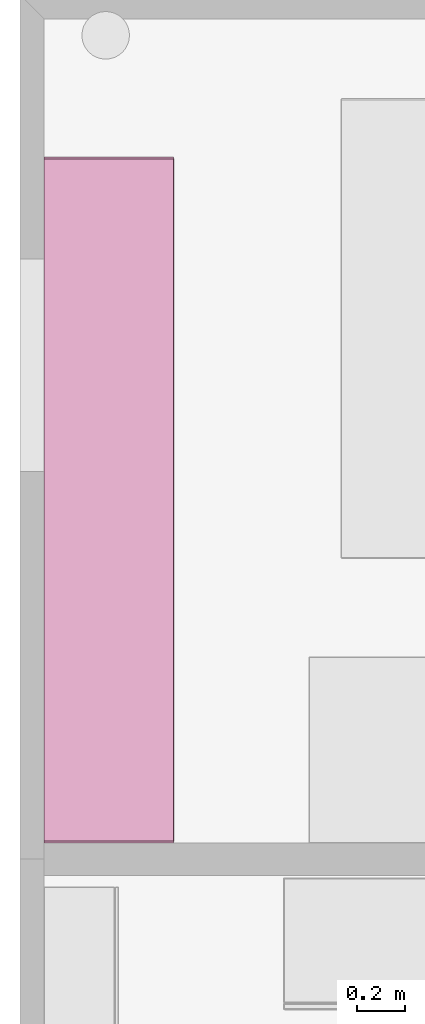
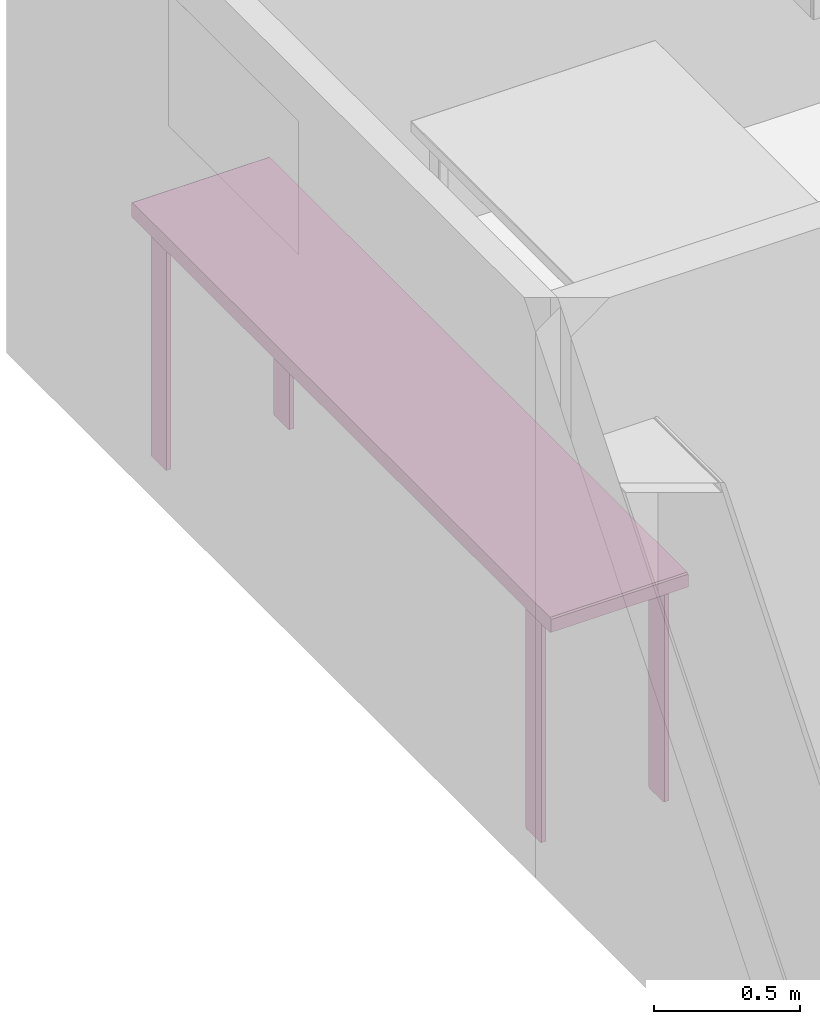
# One storey, part 6 of 9: 1 furnishing.
"""IFC2X3 building model written with IfcOpenShell, lengths in metres."""

from ifc_helpers import new_model, si_unit, frame, origin_with_axes, place, context, project, spatial, faceted_brep, type_object, element, save


model = new_model("IFC2X3")

# Units and contexts
model_context = context("Model", 3, precision=1e-05, world=origin_with_axes())
ifc_project = project(units=[si_unit("AREAUNIT", "SQUARE_METRE"), si_unit("LENGTHUNIT", "METRE")], contexts=[model_context])

# Site, building, storey, space
site_placement = place(None, origin_with_axes())
site = spatial("IfcSite", under=ifc_project, at=site_placement, Name="Site", CompositionType="ELEMENT")
building_placement = place(site_placement, origin_with_axes())
building = spatial("IfcBuilding", under=site, at=building_placement, Name="Building", CompositionType="ELEMENT")
storey_placement = place(building_placement, frame((0.0, 0.0, 0.0500004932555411), z_axis=(0.0, 0.0, 1.0), x_axis=(1.0, 0.0, 0.0)))
storey = spatial("IfcBuildingStorey", under=building, at=storey_placement, Name="Story 0", CompositionType="ELEMENT", Elevation=0.0499999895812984)
space_placement = place(storey_placement, frame((-7.67097576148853, 2.58340758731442, 0.0), z_axis=(0.0, 0.0, 1.0), x_axis=(1.0, 0.0, 0.0)))
space = spatial("IfcSpace", under=storey, at=space_placement, Name="001", CompositionType="ELEMENT", InteriorOrExteriorSpace="INTERNAL")

# Furnishing
furniture_type = type_object("IfcFurnitureType", Name="f8750fec-dc7e-454e-889b-e3eeaa5280df")
furnishing_placement = place(space_placement, frame((0.274523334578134, -2.02252275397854, 0.506083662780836), z_axis=(0.0, 0.0, 1.00000000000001), x_axis=(1.00000000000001, 0.0, 0.0)))
element("IfcFurnishingElement", 1, at=furnishing_placement, inside=space, type_object=furniture_type, Name="Table", ObjectType="Table", context=model_context, shape_type="Brep", body=[
    faceted_brep([(0.272, 1.441, 0.4474), (-0.272, 1.441, 0.4474), (0.272, 1.441, 0.5016), (-0.272, 1.441, 0.5016), (0.272, 1.441, 0.5016), (-0.272, 1.441, 0.4474), (0.2331, -1.3342, 0.4588), (0.2331, -1.2397, 0.4588), (0.2331, -1.3342, -0.5016), (0.2331, -1.2397, -0.5016), (0.2331, -1.3342, -0.5016), (0.2331, -1.2397, 0.4588), (0.2524, -1.3414, 0.4588), (0.2345, -1.3414, 0.4588), (0.2524, -1.3414, -0.5016), (0.2345, -1.3414, -0.5016), (0.2524, -1.3414, -0.5016), (0.2345, -1.3414, 0.4588), (0.2538, -1.2397, 0.4588), (0.2538, -1.3342, 0.4588), (0.2538, -1.2397, -0.5016), (0.2538, -1.3342, -0.5016), (0.2538, -1.2397, -0.5016), (0.2538, -1.3342, 0.4588), (0.2345, -1.2325, 0.4588), (0.2524, -1.2325, 0.4588), (0.2345, -1.2325, -0.5016), (0.2524, -1.2325, -0.5016), (0.2345, -1.2325, -0.5016), (0.2524, -1.2325, 0.4588), (0.2331, 1.3342, 0.4588), (0.2331, 1.3342, -0.5016), (0.2331, 1.2397, 0.4588), (0.2331, 1.2397, -0.5016), (0.2331, 1.2397, 0.4588), (0.2331, 1.3342, -0.5016), (0.2524, 1.3414, 0.4588), (0.2524, 1.3414, -0.5016), (0.2345, 1.3414, 0.4588), (0.2345, 1.3414, -0.5016), (0.2345, 1.3414, 0.4588), (0.2524, 1.3414, -0.5016), (0.2538, 1.2397, 0.4588), (0.2538, 1.2397, -0.5016), (0.2538, 1.3342, 0.4588), (0.2538, 1.3342, -0.5016), (0.2538, 1.3342, 0.4588), (0.2538, 1.2397, -0.5016), (0.2345, 1.2325, 0.4588), (0.2345, 1.2325, -0.5016), (0.2524, 1.2325, 0.4588), (0.2524, 1.2325, -0.5016), (0.2524, 1.2325, 0.4588), (0.2345, 1.2325, -0.5016), (0.2733, 1.4338, 0.4474), (0.2733, 1.4338, 0.5016), (0.2733, -1.4338, 0.4474), (0.2733, -1.4338, 0.5016), (0.2733, -1.4338, 0.4474), (0.2733, 1.4338, 0.5016), (-0.2733, 1.4338, 0.5016), (-0.2733, 1.4338, 0.4474), (-0.2733, -1.4338, 0.5016), (-0.2733, -1.4338, 0.4474), (-0.2733, -1.4338, 0.5016), (-0.2733, 1.4338, 0.4474), (-0.2331, -1.3342, 0.4588), (-0.2331, -1.3342, -0.5016), (-0.2331, -1.2397, 0.4588), (-0.2331, -1.2397, -0.5016), (-0.2331, -1.2397, 0.4588), (-0.2331, -1.3342, -0.5016), (-0.2524, -1.3414, 0.4588), (-0.2524, -1.3414, -0.5016), (-0.2345, -1.3414, 0.4588), (-0.2345, -1.3414, -0.5016), (-0.2345, -1.3414, 0.4588), (-0.2524, -1.3414, -0.5016), (-0.2538, -1.2397, 0.4588), (-0.2538, -1.2397, -0.5016), (-0.2538, -1.3342, 0.4588), (-0.2538, -1.3342, -0.5016), (-0.2538, -1.3342, 0.4588), (-0.2538, -1.2397, -0.5016), (-0.2345, -1.2325, 0.4588), (-0.2345, -1.2325, -0.5016), (-0.2524, -1.2325, 0.4588), (-0.2524, -1.2325, -0.5016), (-0.2524, -1.2325, 0.4588), (-0.2345, -1.2325, -0.5016), (-0.2331, 1.3342, 0.4588), (-0.2331, 1.2397, 0.4588), (-0.2331, 1.3342, -0.5016), (-0.2331, 1.2397, -0.5016), (-0.2331, 1.3342, -0.5016), (-0.2331, 1.2397, 0.4588), (-0.2524, 1.3414, 0.4588), (-0.2345, 1.3414, 0.4588), (-0.2524, 1.3414, -0.5016), (-0.2345, 1.3414, -0.5016), (-0.2524, 1.3414, -0.5016), (-0.2345, 1.3414, 0.4588), (-0.2538, 1.2397, 0.4588), (-0.2538, 1.3342, 0.4588), (-0.2538, 1.2397, -0.5016), (-0.2538, 1.3342, -0.5016), (-0.2538, 1.2397, -0.5016), (-0.2538, 1.3342, 0.4588), (-0.2345, 1.2325, 0.4588), (-0.2524, 1.2325, 0.4588), (-0.2345, 1.2325, -0.5016), (-0.2524, 1.2325, -0.5016), (-0.2345, 1.2325, -0.5016), (-0.2524, 1.2325, 0.4588), (-0.272, 1.4338, 0.5061), (-0.272, -1.4338, 0.5061), (0.272, 1.4338, 0.5061), (0.272, -1.4338, 0.5061), (0.272, 1.4338, 0.5061), (-0.272, -1.4338, 0.5061), (0.272, -1.441, 0.4474), (0.272, -1.441, 0.5016), (-0.272, -1.441, 0.4474), (-0.272, -1.441, 0.5016), (-0.272, -1.441, 0.4474), (0.272, -1.441, 0.5016), (0.272, -1.4338, 0.4429), (-0.272, -1.4338, 0.4429), (0.272, 1.4338, 0.4429), (-0.272, 1.4338, 0.4429), (0.272, 1.4338, 0.4429), (-0.272, -1.4338, 0.4429), (0.2524, -1.3342, 0.4632), (0.2524, -1.2397, 0.4632), (0.2345, -1.3342, 0.4632), (0.2345, -1.2397, 0.4632), (0.2345, -1.3342, 0.4632), (0.2524, -1.2397, 0.4632), (0.2524, -1.2397, -0.5061), (0.2524, -1.3342, -0.5061), (0.2345, -1.2397, -0.5061), (0.2345, -1.3342, -0.5061), (0.2345, -1.2397, -0.5061), (0.2524, -1.3342, -0.5061), (0.2524, 1.3342, -0.5061), (0.2524, 1.2397, -0.5061), (0.2345, 1.3342, -0.5061), (0.2345, 1.2397, -0.5061), (0.2345, 1.3342, -0.5061), (0.2524, 1.2397, -0.5061), (0.2524, 1.2397, 0.4632), (0.2524, 1.3342, 0.4632), (0.2345, 1.2397, 0.4632), (0.2345, 1.3342, 0.4632), (0.2345, 1.2397, 0.4632), (0.2524, 1.3342, 0.4632), (-0.2524, -1.3342, -0.5061), (-0.2524, -1.2397, -0.5061), (-0.2345, -1.3342, -0.5061), (-0.2345, -1.2397, -0.5061), (-0.2345, -1.3342, -0.5061), (-0.2524, -1.2397, -0.5061), (-0.2524, -1.2397, 0.4632), (-0.2524, -1.3342, 0.4632), (-0.2345, -1.2397, 0.4632), (-0.2345, -1.3342, 0.4632), (-0.2345, -1.2397, 0.4632), (-0.2524, -1.3342, 0.4632), (-0.2524, 1.3342, 0.4632), (-0.2524, 1.2397, 0.4632), (-0.2345, 1.3342, 0.4632), (-0.2345, 1.2397, 0.4632), (-0.2345, 1.3342, 0.4632), (-0.2524, 1.2397, 0.4632), (-0.2524, 1.2397, -0.5061), (-0.2524, 1.3342, -0.5061), (-0.2345, 1.2397, -0.5061), (-0.2345, 1.3342, -0.5061), (-0.2345, 1.2397, -0.5061), (-0.2524, 1.3342, -0.5061), (-0.272, 1.4338, 0.5061), (-0.272, 1.441, 0.5016), (-0.2733, 1.4338, 0.5016), (0.2345, -1.2397, -0.5061), (0.2331, -1.2397, -0.5016), (0.2345, -1.2325, -0.5016), (0.2345, -1.3342, -0.5061), (0.2345, -1.3414, -0.5016), (0.2331, -1.3342, -0.5016), (0.2524, -1.3342, -0.5061), (0.2538, -1.3342, -0.5016), (0.2524, -1.3414, -0.5016), (0.2524, -1.2397, -0.5061), (0.2524, -1.2325, -0.5016), (0.2538, -1.2397, -0.5016), (0.2345, -1.2397, 0.4632), (0.2345, -1.2325, 0.4588), (0.2331, -1.2397, 0.4588), (0.2345, 1.2325, -0.5016), (0.2331, 1.2397, -0.5016), (0.2345, 1.2397, -0.5061), (0.2345, 1.3342, 0.4632), (0.2345, 1.3414, 0.4588), (0.2331, 1.3342, 0.4588), (0.2524, 1.3342, 0.4632), (0.2538, 1.3342, 0.4588), (0.2524, 1.3414, 0.4588), (0.2524, 1.2397, 0.4632), (0.2524, 1.2325, 0.4588), (0.2538, 1.2397, 0.4588), (0.272, -1.441, 0.5016), (0.2733, -1.4338, 0.5016), (0.272, -1.4338, 0.5061), (0.272, 1.4338, 0.5061), (0.2733, 1.4338, 0.5016), (0.272, 1.441, 0.5016), (-0.272, -1.441, 0.4474), (-0.2733, -1.4338, 0.4474), (-0.272, -1.4338, 0.4429), (-0.272, 1.4338, 0.4429), (-0.2733, 1.4338, 0.4474), (-0.272, 1.441, 0.4474), (-0.2345, -1.2325, -0.5016), (-0.2331, -1.2397, -0.5016), (-0.2345, -1.2397, -0.5061), (-0.2345, -1.3342, 0.4632), (-0.2345, -1.3414, 0.4588), (-0.2331, -1.3342, 0.4588), (-0.2524, -1.3342, 0.4632), (-0.2538, -1.3342, 0.4588), (-0.2524, -1.3414, 0.4588), (-0.2524, -1.2397, 0.4632), (-0.2524, -1.2325, 0.4588), (-0.2538, -1.2397, 0.4588), (-0.2345, 1.2397, -0.5061), (-0.2331, 1.2397, -0.5016), (-0.2345, 1.2325, -0.5016), (-0.2345, 1.3342, -0.5061), (-0.2345, 1.3414, -0.5016), (-0.2331, 1.3342, -0.5016), (-0.2524, 1.3342, -0.5061), (-0.2538, 1.3342, -0.5016), (-0.2524, 1.3414, -0.5016), (-0.2524, 1.2397, -0.5061), (-0.2524, 1.2325, -0.5016), (-0.2538, 1.2397, -0.5016), (-0.2345, 1.2397, 0.4632), (-0.2345, 1.2325, 0.4588), (-0.2331, 1.2397, 0.4588), (-0.272, -1.441, 0.5016), (-0.272, -1.4338, 0.5061), (-0.2733, -1.4338, 0.5016), (0.272, -1.441, 0.4474), (0.272, -1.4338, 0.4429), (0.2733, -1.4338, 0.4474), (0.2733, 1.4338, 0.4474), (0.272, 1.4338, 0.4429), (0.272, 1.441, 0.4474), (0.2524, -1.2325, 0.4588), (0.2524, -1.2397, 0.4632), (0.2538, -1.2397, 0.4588), (0.2538, -1.3342, 0.4588), (0.2524, -1.3342, 0.4632), (0.2524, -1.3414, 0.4588), (0.2345, -1.3414, 0.4588), (0.2345, -1.3342, 0.4632), (0.2331, -1.3342, 0.4588), (0.2524, 1.2325, -0.5016), (0.2524, 1.2397, -0.5061), (0.2538, 1.2397, -0.5016), (0.2538, 1.3342, -0.5016), (0.2524, 1.3342, -0.5061), (0.2524, 1.3414, -0.5016), (0.2345, 1.3414, -0.5016), (0.2345, 1.3342, -0.5061), (0.2331, 1.3342, -0.5016), (0.2345, 1.2325, 0.4588), (0.2345, 1.2397, 0.4632), (0.2331, 1.2397, 0.4588), (-0.2524, -1.2325, -0.5016), (-0.2524, -1.2397, -0.5061), (-0.2538, -1.2397, -0.5016), (-0.2538, -1.3342, -0.5016), (-0.2524, -1.3342, -0.5061), (-0.2524, -1.3414, -0.5016), (-0.2345, -1.3414, -0.5016), (-0.2345, -1.3342, -0.5061), (-0.2331, -1.3342, -0.5016), (-0.2345, -1.2325, 0.4588), (-0.2345, -1.2397, 0.4632), (-0.2331, -1.2397, 0.4588), (-0.2524, 1.2325, 0.4588), (-0.2524, 1.2397, 0.4632), (-0.2538, 1.2397, 0.4588), (-0.2538, 1.3342, 0.4588), (-0.2524, 1.3342, 0.4632), (-0.2524, 1.3414, 0.4588), (-0.2345, 1.3414, 0.4588), (-0.2345, 1.3342, 0.4632), (-0.2331, 1.3342, 0.4588), (-0.272, 1.441, 0.5016), (-0.272, 1.441, 0.4474), (-0.2733, 1.4338, 0.5016), (-0.2733, 1.4338, 0.4474), (-0.2733, 1.4338, 0.5016), (-0.272, 1.441, 0.4474), (-0.272, 1.441, 0.4474), (0.272, 1.441, 0.4474), (-0.272, 1.4338, 0.4429), (0.272, 1.4338, 0.4429), (-0.272, 1.4338, 0.4429), (0.272, 1.441, 0.4474), (0.272, 1.441, 0.4474), (0.272, 1.441, 0.5016), (0.2733, 1.4338, 0.4474), (0.2733, 1.4338, 0.5016), (0.2733, 1.4338, 0.4474), (0.272, 1.441, 0.5016), (0.272, 1.441, 0.5016), (-0.272, 1.441, 0.5016), (0.272, 1.4338, 0.5061), (-0.272, 1.4338, 0.5061), (0.272, 1.4338, 0.5061), (-0.272, 1.441, 0.5016), (0.2331, -1.2397, -0.5016), (0.2331, -1.2397, 0.4588), (0.2345, -1.2325, -0.5016), (0.2345, -1.2325, 0.4588), (0.2345, -1.2325, -0.5016), (0.2331, -1.2397, 0.4588), (0.2331, -1.2397, 0.4588), (0.2331, -1.3342, 0.4588), (0.2345, -1.2397, 0.4632), (0.2345, -1.3342, 0.4632), (0.2345, -1.2397, 0.4632), (0.2331, -1.3342, 0.4588), (0.2331, -1.3342, 0.4588), (0.2331, -1.3342, -0.5016), (0.2345, -1.3414, 0.4588), (0.2345, -1.3414, -0.5016), (0.2345, -1.3414, 0.4588), (0.2331, -1.3342, -0.5016), (0.2331, -1.3342, -0.5016), (0.2331, -1.2397, -0.5016), (0.2345, -1.3342, -0.5061), (0.2345, -1.2397, -0.5061), (0.2345, -1.3342, -0.5061), (0.2331, -1.2397, -0.5016), (0.2345, -1.3414, 0.4588), (0.2524, -1.3414, 0.4588), (0.2345, -1.3342, 0.4632), (0.2524, -1.3342, 0.4632), (0.2345, -1.3342, 0.4632), (0.2524, -1.3414, 0.4588), (0.2524, -1.3414, 0.4588), (0.2524, -1.3414, -0.5016), (0.2538, -1.3342, 0.4588), (0.2538, -1.3342, -0.5016), (0.2538, -1.3342, 0.4588), (0.2524, -1.3414, -0.5016), (0.2524, -1.3414, -0.5016), (0.2345, -1.3414, -0.5016), (0.2524, -1.3342, -0.5061), (0.2345, -1.3342, -0.5061), (0.2524, -1.3342, -0.5061), (0.2345, -1.3414, -0.5016), (0.2538, -1.3342, 0.4588), (0.2538, -1.2397, 0.4588), (0.2524, -1.3342, 0.4632), (0.2524, -1.2397, 0.4632), (0.2524, -1.3342, 0.4632), (0.2538, -1.2397, 0.4588), (0.2538, -1.2397, 0.4588), (0.2538, -1.2397, -0.5016), (0.2524, -1.2325, 0.4588), (0.2524, -1.2325, -0.5016), (0.2524, -1.2325, 0.4588), (0.2538, -1.2397, -0.5016), (0.2538, -1.2397, -0.5016), (0.2538, -1.3342, -0.5016), (0.2524, -1.2397, -0.5061), (0.2524, -1.3342, -0.5061), (0.2524, -1.2397, -0.5061), (0.2538, -1.3342, -0.5016), (0.2524, -1.2325, 0.4588), (0.2345, -1.2325, 0.4588), (0.2524, -1.2397, 0.4632), (0.2345, -1.2397, 0.4632), (0.2524, -1.2397, 0.4632), (0.2345, -1.2325, 0.4588), (0.2345, -1.2325, -0.5016), (0.2524, -1.2325, -0.5016), (0.2345, -1.2397, -0.5061), (0.2524, -1.2397, -0.5061), (0.2345, -1.2397, -0.5061), (0.2524, -1.2325, -0.5016), (0.2331, 1.2397, -0.5016), (0.2331, 1.3342, -0.5016), (0.2345, 1.2397, -0.5061), (0.2345, 1.3342, -0.5061), (0.2345, 1.2397, -0.5061), (0.2331, 1.3342, -0.5016), (0.2331, 1.3342, -0.5016), (0.2331, 1.3342, 0.4588), (0.2345, 1.3414, -0.5016), (0.2345, 1.3414, 0.4588), (0.2345, 1.3414, -0.5016), (0.2331, 1.3342, 0.4588), (0.2331, 1.3342, 0.4588), (0.2331, 1.2397, 0.4588), (0.2345, 1.3342, 0.4632), (0.2345, 1.2397, 0.4632), (0.2345, 1.3342, 0.4632), (0.2331, 1.2397, 0.4588), (0.2331, 1.2397, 0.4588), (0.2331, 1.2397, -0.5016), (0.2345, 1.2325, 0.4588), (0.2345, 1.2325, -0.5016), (0.2345, 1.2325, 0.4588), (0.2331, 1.2397, -0.5016), (0.2345, 1.3414, -0.5016), (0.2524, 1.3414, -0.5016), (0.2345, 1.3342, -0.5061), (0.2524, 1.3342, -0.5061), (0.2345, 1.3342, -0.5061), (0.2524, 1.3414, -0.5016), (0.2524, 1.3414, -0.5016), (0.2524, 1.3414, 0.4588), (0.2538, 1.3342, -0.5016), (0.2538, 1.3342, 0.4588), (0.2538, 1.3342, -0.5016), (0.2524, 1.3414, 0.4588), (0.2524, 1.3414, 0.4588), (0.2345, 1.3414, 0.4588), (0.2524, 1.3342, 0.4632), (0.2345, 1.3342, 0.4632), (0.2524, 1.3342, 0.4632), (0.2345, 1.3414, 0.4588), (0.2538, 1.3342, -0.5016), (0.2538, 1.2397, -0.5016), (0.2524, 1.3342, -0.5061), (0.2524, 1.2397, -0.5061), (0.2524, 1.3342, -0.5061), (0.2538, 1.2397, -0.5016), (0.2538, 1.2397, -0.5016), (0.2538, 1.2397, 0.4588), (0.2524, 1.2325, -0.5016), (0.2524, 1.2325, 0.4588), (0.2524, 1.2325, -0.5016), (0.2538, 1.2397, 0.4588), (0.2538, 1.2397, 0.4588), (0.2538, 1.3342, 0.4588), (0.2524, 1.2397, 0.4632), (0.2524, 1.3342, 0.4632), (0.2524, 1.2397, 0.4632), (0.2538, 1.3342, 0.4588), (0.2524, 1.2325, -0.5016), (0.2345, 1.2325, -0.5016), (0.2524, 1.2397, -0.5061), (0.2345, 1.2397, -0.5061), (0.2524, 1.2397, -0.5061), (0.2345, 1.2325, -0.5016), (0.2345, 1.2325, 0.4588), (0.2524, 1.2325, 0.4588), (0.2345, 1.2397, 0.4632), (0.2524, 1.2397, 0.4632), (0.2345, 1.2397, 0.4632), (0.2524, 1.2325, 0.4588), (0.2733, -1.4338, 0.5016), (0.2733, 1.4338, 0.5016), (0.272, -1.4338, 0.5061), (0.272, 1.4338, 0.5061), (0.272, -1.4338, 0.5061), (0.2733, 1.4338, 0.5016), (0.2733, 1.4338, 0.4474), (0.2733, -1.4338, 0.4474), (0.272, 1.4338, 0.4429), (0.272, -1.4338, 0.4429), (0.272, 1.4338, 0.4429), (0.2733, -1.4338, 0.4474), (0.2733, -1.4338, 0.4474), (0.2733, -1.4338, 0.5016), (0.272, -1.441, 0.4474), (0.272, -1.441, 0.5016), (0.272, -1.441, 0.4474), (0.2733, -1.4338, 0.5016), (-0.2733, -1.4338, 0.4474), (-0.2733, 1.4338, 0.4474), (-0.272, -1.4338, 0.4429), (-0.272, 1.4338, 0.4429), (-0.272, -1.4338, 0.4429), (-0.2733, 1.4338, 0.4474), (-0.2733, 1.4338, 0.5016), (-0.2733, -1.4338, 0.5016), (-0.272, 1.4338, 0.5061), (-0.272, -1.4338, 0.5061), (-0.272, 1.4338, 0.5061), (-0.2733, -1.4338, 0.5016), (-0.2733, -1.4338, 0.5016), (-0.2733, -1.4338, 0.4474), (-0.272, -1.441, 0.5016), (-0.272, -1.441, 0.4474), (-0.272, -1.441, 0.5016), (-0.2733, -1.4338, 0.4474), (-0.2331, -1.2397, -0.5016), (-0.2331, -1.3342, -0.5016), (-0.2345, -1.2397, -0.5061), (-0.2345, -1.3342, -0.5061), (-0.2345, -1.2397, -0.5061), (-0.2331, -1.3342, -0.5016), (-0.2331, -1.3342, -0.5016), (-0.2331, -1.3342, 0.4588), (-0.2345, -1.3414, -0.5016), (-0.2345, -1.3414, 0.4588), (-0.2345, -1.3414, -0.5016), (-0.2331, -1.3342, 0.4588), (-0.2331, -1.3342, 0.4588), (-0.2331, -1.2397, 0.4588), (-0.2345, -1.3342, 0.4632), (-0.2345, -1.2397, 0.4632), (-0.2345, -1.3342, 0.4632), (-0.2331, -1.2397, 0.4588), (-0.2331, -1.2397, 0.4588), (-0.2331, -1.2397, -0.5016), (-0.2345, -1.2325, 0.4588), (-0.2345, -1.2325, -0.5016), (-0.2345, -1.2325, 0.4588), (-0.2331, -1.2397, -0.5016), (-0.2345, -1.3414, -0.5016), (-0.2524, -1.3414, -0.5016), (-0.2345, -1.3342, -0.5061), (-0.2524, -1.3342, -0.5061), (-0.2345, -1.3342, -0.5061), (-0.2524, -1.3414, -0.5016), (-0.2524, -1.3414, -0.5016), (-0.2524, -1.3414, 0.4588), (-0.2538, -1.3342, -0.5016), (-0.2538, -1.3342, 0.4588), (-0.2538, -1.3342, -0.5016), (-0.2524, -1.3414, 0.4588), (-0.2524, -1.3414, 0.4588), (-0.2345, -1.3414, 0.4588), (-0.2524, -1.3342, 0.4632), (-0.2345, -1.3342, 0.4632), (-0.2524, -1.3342, 0.4632), (-0.2345, -1.3414, 0.4588), (-0.2538, -1.3342, -0.5016), (-0.2538, -1.2397, -0.5016), (-0.2524, -1.3342, -0.5061), (-0.2524, -1.2397, -0.5061), (-0.2524, -1.3342, -0.5061), (-0.2538, -1.2397, -0.5016), (-0.2538, -1.2397, -0.5016), (-0.2538, -1.2397, 0.4588), (-0.2524, -1.2325, -0.5016), (-0.2524, -1.2325, 0.4588), (-0.2524, -1.2325, -0.5016), (-0.2538, -1.2397, 0.4588), (-0.2538, -1.2397, 0.4588), (-0.2538, -1.3342, 0.4588), (-0.2524, -1.2397, 0.4632), (-0.2524, -1.3342, 0.4632), (-0.2524, -1.2397, 0.4632), (-0.2538, -1.3342, 0.4588), (-0.2524, -1.2325, -0.5016), (-0.2345, -1.2325, -0.5016), (-0.2524, -1.2397, -0.5061), (-0.2345, -1.2397, -0.5061), (-0.2524, -1.2397, -0.5061), (-0.2345, -1.2325, -0.5016), (-0.2345, -1.2325, 0.4588), (-0.2524, -1.2325, 0.4588), (-0.2345, -1.2397, 0.4632), (-0.2524, -1.2397, 0.4632), (-0.2345, -1.2397, 0.4632), (-0.2524, -1.2325, 0.4588), (-0.2331, 1.2397, -0.5016), (-0.2331, 1.2397, 0.4588), (-0.2345, 1.2325, -0.5016), (-0.2345, 1.2325, 0.4588), (-0.2345, 1.2325, -0.5016), (-0.2331, 1.2397, 0.4588), (-0.2331, 1.2397, 0.4588), (-0.2331, 1.3342, 0.4588), (-0.2345, 1.2397, 0.4632), (-0.2345, 1.3342, 0.4632), (-0.2345, 1.2397, 0.4632), (-0.2331, 1.3342, 0.4588), (-0.2331, 1.3342, 0.4588), (-0.2331, 1.3342, -0.5016), (-0.2345, 1.3414, 0.4588), (-0.2345, 1.3414, -0.5016), (-0.2345, 1.3414, 0.4588), (-0.2331, 1.3342, -0.5016), (-0.2331, 1.3342, -0.5016), (-0.2331, 1.2397, -0.5016), (-0.2345, 1.3342, -0.5061), (-0.2345, 1.2397, -0.5061), (-0.2345, 1.3342, -0.5061), (-0.2331, 1.2397, -0.5016), (-0.2345, 1.3414, 0.4588), (-0.2524, 1.3414, 0.4588), (-0.2345, 1.3342, 0.4632), (-0.2524, 1.3342, 0.4632), (-0.2345, 1.3342, 0.4632), (-0.2524, 1.3414, 0.4588), (-0.2524, 1.3414, 0.4588), (-0.2524, 1.3414, -0.5016), (-0.2538, 1.3342, 0.4588), (-0.2538, 1.3342, -0.5016), (-0.2538, 1.3342, 0.4588), (-0.2524, 1.3414, -0.5016), (-0.2524, 1.3414, -0.5016), (-0.2345, 1.3414, -0.5016), (-0.2524, 1.3342, -0.5061), (-0.2345, 1.3342, -0.5061), (-0.2524, 1.3342, -0.5061), (-0.2345, 1.3414, -0.5016), (-0.2538, 1.3342, 0.4588), (-0.2538, 1.2397, 0.4588), (-0.2524, 1.3342, 0.4632), (-0.2524, 1.2397, 0.4632), (-0.2524, 1.3342, 0.4632), (-0.2538, 1.2397, 0.4588), (-0.2538, 1.2397, 0.4588), (-0.2538, 1.2397, -0.5016), (-0.2524, 1.2325, 0.4588), (-0.2524, 1.2325, -0.5016), (-0.2524, 1.2325, 0.4588), (-0.2538, 1.2397, -0.5016), (-0.2538, 1.2397, -0.5016), (-0.2538, 1.3342, -0.5016), (-0.2524, 1.2397, -0.5061), (-0.2524, 1.3342, -0.5061), (-0.2524, 1.2397, -0.5061), (-0.2538, 1.3342, -0.5016), (-0.2524, 1.2325, 0.4588), (-0.2345, 1.2325, 0.4588), (-0.2524, 1.2397, 0.4632), (-0.2345, 1.2397, 0.4632), (-0.2524, 1.2397, 0.4632), (-0.2345, 1.2325, 0.4588), (-0.2345, 1.2325, -0.5016), (-0.2524, 1.2325, -0.5016), (-0.2345, 1.2397, -0.5061), (-0.2524, 1.2397, -0.5061), (-0.2345, 1.2397, -0.5061), (-0.2524, 1.2325, -0.5016), (0.272, -1.4338, 0.5061), (-0.272, -1.4338, 0.5061), (0.272, -1.441, 0.5016), (-0.272, -1.441, 0.5016), (0.272, -1.441, 0.5016), (-0.272, -1.4338, 0.5061), (0.272, -1.441, 0.4474), (-0.272, -1.441, 0.4474), (0.272, -1.4338, 0.4429), (-0.272, -1.4338, 0.4429), (0.272, -1.4338, 0.4429), (-0.272, -1.441, 0.4474)], [[[0, 1, 2]], [[3, 4, 5]], [[6, 7, 8]], [[9, 10, 11]], [[12, 13, 14]], [[15, 16, 17]], [[18, 19, 20]], [[21, 22, 23]], [[24, 25, 26]], [[27, 28, 29]], [[30, 31, 32]], [[33, 34, 35]], [[36, 37, 38]], [[39, 40, 41]], [[42, 43, 44]], [[45, 46, 47]], [[48, 49, 50]], [[51, 52, 53]], [[54, 55, 56]], [[57, 58, 59]], [[60, 61, 62]], [[63, 64, 65]], [[66, 67, 68]], [[69, 70, 71]], [[72, 73, 74]], [[75, 76, 77]], [[78, 79, 80]], [[81, 82, 83]], [[84, 85, 86]], [[87, 88, 89]], [[90, 91, 92]], [[93, 94, 95]], [[96, 97, 98]], [[99, 100, 101]], [[102, 103, 104]], [[105, 106, 107]], [[108, 109, 110]], [[111, 112, 113]], [[114, 115, 116]], [[117, 118, 119]], [[120, 121, 122]], [[123, 124, 125]], [[126, 127, 128]], [[129, 130, 131]], [[132, 133, 134]], [[135, 136, 137]], [[138, 139, 140]], [[141, 142, 143]], [[144, 145, 146]], [[147, 148, 149]], [[150, 151, 152]], [[153, 154, 155]], [[156, 157, 158]], [[159, 160, 161]], [[162, 163, 164]], [[165, 166, 167]], [[168, 169, 170]], [[171, 172, 173]], [[174, 175, 176]], [[177, 178, 179]], [[180, 181, 182]], [[183, 184, 185]], [[186, 187, 188]], [[189, 190, 191]], [[192, 193, 194]], [[195, 196, 197]], [[198, 199, 200]], [[201, 202, 203]], [[204, 205, 206]], [[207, 208, 209]], [[210, 211, 212]], [[213, 214, 215]], [[216, 217, 218]], [[219, 220, 221]], [[222, 223, 224]], [[225, 226, 227]], [[228, 229, 230]], [[231, 232, 233]], [[234, 235, 236]], [[237, 238, 239]], [[240, 241, 242]], [[243, 244, 245]], [[246, 247, 248]], [[249, 250, 251]], [[252, 253, 254]], [[255, 256, 257]], [[258, 259, 260]], [[261, 262, 263]], [[264, 265, 266]], [[267, 268, 269]], [[270, 271, 272]], [[273, 274, 275]], [[276, 277, 278]], [[279, 280, 281]], [[282, 283, 284]], [[285, 286, 287]], [[288, 289, 290]], [[291, 292, 293]], [[294, 295, 296]], [[297, 298, 299]], [[300, 301, 302]], [[303, 304, 305]], [[306, 307, 308]], [[309, 310, 311]], [[312, 313, 314]], [[315, 316, 317]], [[318, 319, 320]], [[321, 322, 323]], [[324, 325, 326]], [[327, 328, 329]], [[330, 331, 332]], [[333, 334, 335]], [[336, 337, 338]], [[339, 340, 341]], [[342, 343, 344]], [[345, 346, 347]], [[348, 349, 350]], [[351, 352, 353]], [[354, 355, 356]], [[357, 358, 359]], [[360, 361, 362]], [[363, 364, 365]], [[366, 367, 368]], [[369, 370, 371]], [[372, 373, 374]], [[375, 376, 377]], [[378, 379, 380]], [[381, 382, 383]], [[384, 385, 386]], [[387, 388, 389]], [[390, 391, 392]], [[393, 394, 395]], [[396, 397, 398]], [[399, 400, 401]], [[402, 403, 404]], [[405, 406, 407]], [[408, 409, 410]], [[411, 412, 413]], [[414, 415, 416]], [[417, 418, 419]], [[420, 421, 422]], [[423, 424, 425]], [[426, 427, 428]], [[429, 430, 431]], [[432, 433, 434]], [[435, 436, 437]], [[438, 439, 440]], [[441, 442, 443]], [[444, 445, 446]], [[447, 448, 449]], [[450, 451, 452]], [[453, 454, 455]], [[456, 457, 458]], [[459, 460, 461]], [[462, 463, 464]], [[465, 466, 467]], [[468, 469, 470]], [[471, 472, 473]], [[474, 475, 476]], [[477, 478, 479]], [[480, 481, 482]], [[483, 484, 485]], [[486, 487, 488]], [[489, 490, 491]], [[492, 493, 494]], [[495, 496, 497]], [[498, 499, 500]], [[501, 502, 503]], [[504, 505, 506]], [[507, 508, 509]], [[510, 511, 512]], [[513, 514, 515]], [[516, 517, 518]], [[519, 520, 521]], [[522, 523, 524]], [[525, 526, 527]], [[528, 529, 530]], [[531, 532, 533]], [[534, 535, 536]], [[537, 538, 539]], [[540, 541, 542]], [[543, 544, 545]], [[546, 547, 548]], [[549, 550, 551]], [[552, 553, 554]], [[555, 556, 557]], [[558, 559, 560]], [[561, 562, 563]], [[564, 565, 566]], [[567, 568, 569]], [[570, 571, 572]], [[573, 574, 575]], [[576, 577, 578]], [[579, 580, 581]], [[582, 583, 584]], [[585, 586, 587]], [[588, 589, 590]], [[591, 592, 593]], [[594, 595, 596]], [[597, 598, 599]], [[600, 601, 602]], [[603, 604, 605]], [[606, 607, 608]], [[609, 610, 611]], [[612, 613, 614]], [[615, 616, 617]], [[618, 619, 620]], [[621, 622, 623]], [[624, 625, 626]], [[627, 628, 629]], [[630, 631, 632]], [[633, 634, 635]], [[636, 637, 638]], [[639, 640, 641]], [[642, 643, 644]], [[645, 646, 647]], [[648, 649, 650]], [[651, 652, 653]], [[654, 655, 656]], [[657, 658, 659]]]),
])

save(model, "model.ifc")
